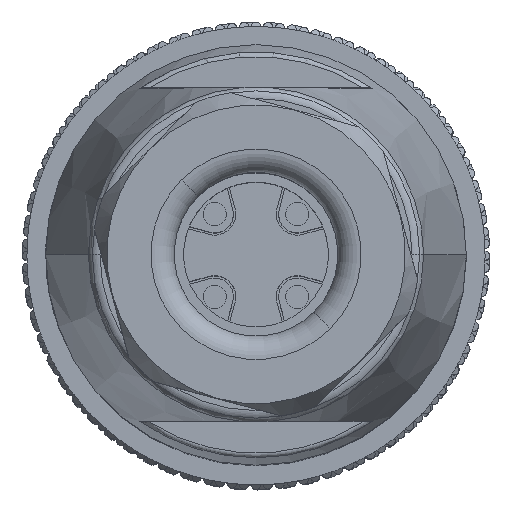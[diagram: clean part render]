
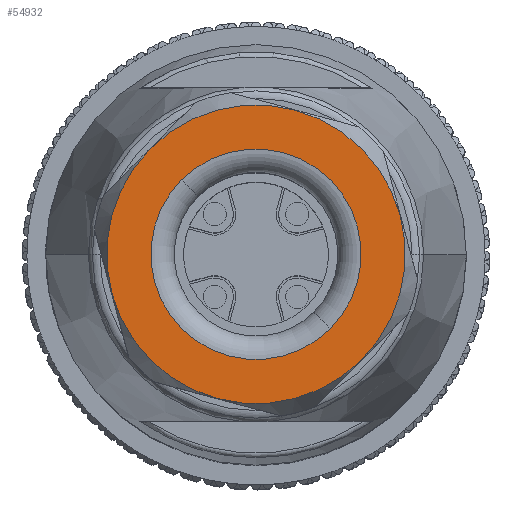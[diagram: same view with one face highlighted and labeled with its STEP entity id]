
A CAD part, top view. The second image highlights one B-rep face of the part: STEP entity #54932.
In plain terms, the highlighted planar face has unit normal (0, 0, 1).
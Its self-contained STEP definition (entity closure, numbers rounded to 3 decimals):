
#16706=CARTESIAN_POINT('',(0.,0.,
38.862));
#16707=DIRECTION('',(0.,0.,-1.));
#16708=DIRECTION('',(0.707,-0.707,0.));
#16709=AXIS2_PLACEMENT_3D('',#16706,#16707,#16708);
#16711=CARTESIAN_POINT('',(0.,0.,
38.862));
#16712=DIRECTION('',(0.,0.,-1.));
#16713=DIRECTION('',(-0.707,0.707,0.));
#16714=AXIS2_PLACEMENT_3D('',#16711,#16712,#16713);
#16716=CARTESIAN_POINT('',(0.,0.,
38.862));
#16717=DIRECTION('',(0.,0.,1.));
#16718=DIRECTION('',(-0.707,0.707,0.));
#16719=AXIS2_PLACEMENT_3D('',#16716,#16717,#16718);
#16721=CARTESIAN_POINT('',(0.,0.,
38.862));
#16722=DIRECTION('',(0.,0.,1.));
#16723=DIRECTION('',(0.707,-0.707,0.));
#16724=AXIS2_PLACEMENT_3D('',#16721,#16722,#16723);
#34806=CARTESIAN_POINT('',(-4.518,4.518,
38.862));
#34808=VERTEX_POINT('',#34806);
#34810=CARTESIAN_POINT('',(4.518,-4.518,
38.862));
#34812=VERTEX_POINT('',#34810);
#34818=CARTESIAN_POINT('',(3.182,-3.182,
38.862));
#34819=CARTESIAN_POINT('',(-3.182,3.182,
38.862));
#34820=VERTEX_POINT('',#34818);
#34821=VERTEX_POINT('',#34819);
#54917=CARTESIAN_POINT('',(0.,0.,
38.862));
#54918=DIRECTION('',(0.,0.,-1.));
#54919=DIRECTION('',(0.707,-0.707,0.));
#54920=AXIS2_PLACEMENT_3D('',#54917,#54918,#54919);
#54921=PLANE('',#54920);
#54923=ORIENTED_EDGE('',*,*,#54922,.F.);
#54925=ORIENTED_EDGE('',*,*,#54924,.F.);
#54926=EDGE_LOOP('',(#54923,#54925));
#54927=FACE_OUTER_BOUND('',#54926,.F.);
#54928=ORIENTED_EDGE('',*,*,#54910,.F.);
#54929=ORIENTED_EDGE('',*,*,#54896,.F.);
#54930=EDGE_LOOP('',(#54928,#54929));
#54931=FACE_BOUND('',#54930,.F.);
#54932=ADVANCED_FACE('',(#54927,#54931),#54921,.F.);
#16710=CIRCLE('',#16709,4.5);
#16715=CIRCLE('',#16714,4.5);
#16720=CIRCLE('',#16719,6.39);
#16725=CIRCLE('',#16724,6.39);
#54896=EDGE_CURVE('',#34821,#34820,#16715,.T.);
#54910=EDGE_CURVE('',#34820,#34821,#16710,.T.);
#54922=EDGE_CURVE('',#34808,#34812,#16720,.T.);
#54924=EDGE_CURVE('',#34812,#34808,#16725,.T.);
